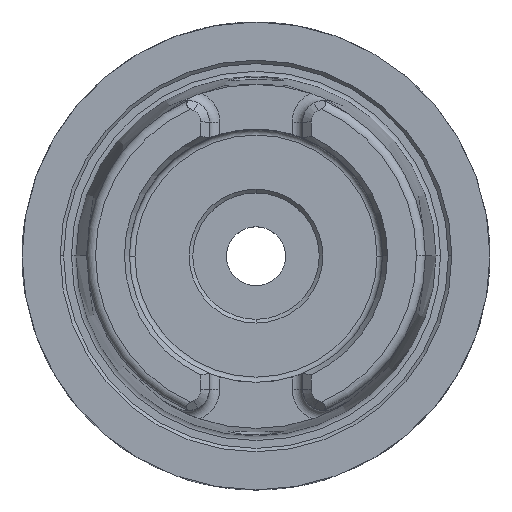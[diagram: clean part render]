
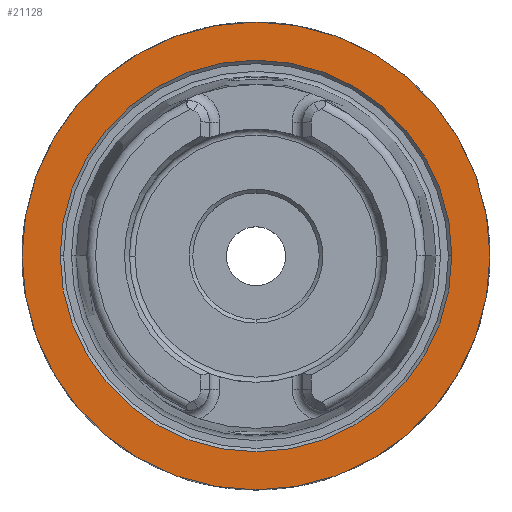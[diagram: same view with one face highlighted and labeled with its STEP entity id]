
A CAD part, top view. The second image highlights one B-rep face of the part: STEP entity #21128.
In plain terms, the highlighted planar face has unit normal (0, 0, 1).
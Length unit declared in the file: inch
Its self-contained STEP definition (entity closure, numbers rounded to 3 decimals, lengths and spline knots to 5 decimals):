
#582 = CARTESIAN_POINT ( 'NONE',  ( 1.23898, 0., 0. ) ) ;
#1625 = DIRECTION ( 'NONE',  ( 0., 0., 1. ) ) ;
#1756 = ORIENTED_EDGE ( 'NONE', *, *, #16190, .F. ) ;
#1826 = CIRCLE ( 'NONE', #14171, 1.03689 ) ;
#2487 = EDGE_LOOP ( 'NONE', ( #1756, #4595 ) ) ;
#2751 = DIRECTION ( 'NONE',  ( 0., 0., -1. ) ) ;
#3657 = DIRECTION ( 'NONE',  ( 0., 0., 1. ) ) ;
#3876 = DIRECTION ( 'NONE',  ( 1., 0., 0. ) ) ;
#4508 = EDGE_CURVE ( 'NONE', #21163, #6349, #21735, .T. ) ;
#4595 = ORIENTED_EDGE ( 'NONE', *, *, #4508, .F. ) ;
#4606 = DIRECTION ( 'NONE',  ( 1., 0., 0. ) ) ;
#4657 = AXIS2_PLACEMENT_3D ( 'NONE', #12167, #1625, #12510 ) ;
#4846 = DIRECTION ( 'NONE',  ( 0., 0., 1. ) ) ;
#5771 = CARTESIAN_POINT ( 'NONE',  ( 0., 0., 0. ) ) ;
#6342 = CARTESIAN_POINT ( 'NONE',  ( 0., 0., 0. ) ) ;
#6349 = VERTEX_POINT ( 'NONE', #7163 ) ;
#6803 = FACE_BOUND ( 'NONE', #12444, .T. ) ;
#7163 = CARTESIAN_POINT ( 'NONE',  ( -1.23898, 0., 0. ) ) ;
#7846 = EDGE_CURVE ( 'NONE', #11693, #17232, #21290, .T. ) ;
#7919 = CARTESIAN_POINT ( 'NONE',  ( 0., 0., 0. ) ) ;
#7980 = AXIS2_PLACEMENT_3D ( 'NONE', #7919, #2751, #21559 ) ;
#9839 = CIRCLE ( 'NONE', #7980, 1.23898 ) ;
#11636 = CARTESIAN_POINT ( 'NONE',  ( -1.03689, 0., 0. ) ) ;
#11693 = VERTEX_POINT ( 'NONE', #11636 ) ;
#12167 = CARTESIAN_POINT ( 'NONE',  ( 0., 0.9575, 0. ) ) ;
#12226 = ORIENTED_EDGE ( 'NONE', *, *, #13105, .F. ) ;
#12290 = ORIENTED_EDGE ( 'NONE', *, *, #7846, .F. ) ;
#12444 = EDGE_LOOP ( 'NONE', ( #12226, #12290 ) ) ;
#12510 = DIRECTION ( 'NONE',  ( 1., 0., 0. ) ) ;
#13105 = EDGE_CURVE ( 'NONE', #17232, #11693, #1826, .T. ) ;
#13208 = DIRECTION ( 'NONE',  ( 0., 0., -1. ) ) ;
#13375 = CARTESIAN_POINT ( 'NONE',  ( 1.03689, 0., 0. ) ) ;
#14171 = AXIS2_PLACEMENT_3D ( 'NONE', #19133, #4846, #4606 ) ;
#15350 = AXIS2_PLACEMENT_3D ( 'NONE', #6342, #13208, #22144 ) ;
#15677 = PLANE ( 'NONE',  #4657 ) ;
#16190 = EDGE_CURVE ( 'NONE', #6349, #21163, #9839, .T. ) ;
#17232 = VERTEX_POINT ( 'NONE', #13375 ) ;
#19133 = CARTESIAN_POINT ( 'NONE',  ( 0., 0., 0. ) ) ;
#21128 = ADVANCED_FACE ( 'NONE', ( #21410, #6803 ), #15677, .T. ) ;
#21163 = VERTEX_POINT ( 'NONE', #582 ) ;
#21290 = CIRCLE ( 'NONE', #23155, 1.03689 ) ;
#21410 = FACE_OUTER_BOUND ( 'NONE', #2487, .T. ) ;
#21559 = DIRECTION ( 'NONE',  ( -1., 0., 0. ) ) ;
#21735 = CIRCLE ( 'NONE', #15350, 1.23898 ) ;
#22144 = DIRECTION ( 'NONE',  ( -1., 0., 0. ) ) ;
#23155 = AXIS2_PLACEMENT_3D ( 'NONE', #5771, #3657, #3876 ) ;
